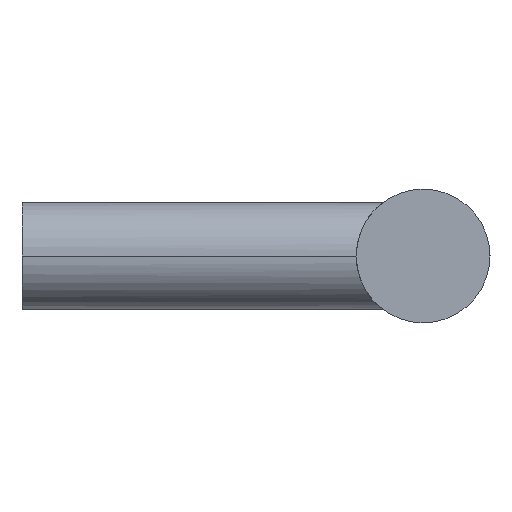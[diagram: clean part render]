
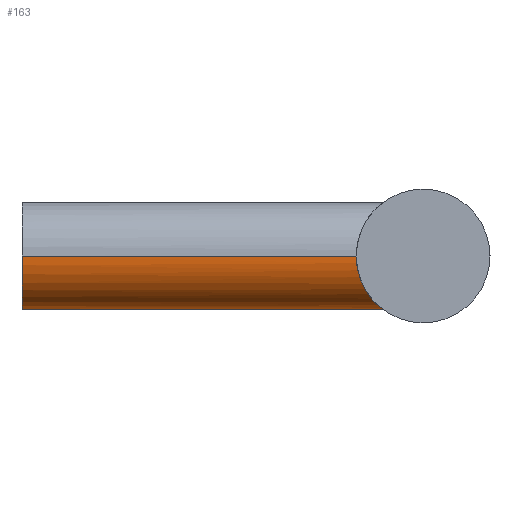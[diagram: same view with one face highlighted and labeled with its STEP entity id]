
A CAD part, left-side view. The second image highlights one B-rep face of the part: STEP entity #163.
In plain terms, the highlighted cylindrical face has radius 4 mm (diameter 8 mm), a partial arc.
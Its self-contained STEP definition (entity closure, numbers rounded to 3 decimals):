
#95 = VERTEX_POINT( '', #253 );
#115 = VERTEX_POINT( '', #279 );
#123 = EDGE_CURVE( '', #145, #95, #288, .T. );
#145 = VERTEX_POINT( '', #312 );
#151 = EDGE_CURVE( '', #115, #213, #319, .T. );
#163 = ADVANCED_FACE( '', ( #332 ), #333, .T. );
#199 = EDGE_CURVE( '', #145, #213, #371, .T. );
#213 = VERTEX_POINT( '', #388 );
#219 = EDGE_CURVE( '', #115, #95, #395, .T. );
#253 = CARTESIAN_POINT( '', ( -4., 0., 0. ) );
#279 = CARTESIAN_POINT( '', ( 4., 0., 0. ) );
#288 = LINE( '', #463, #464 );
#312 = CARTESIAN_POINT( '', ( -4., -25., 0. ) );
#319 = LINE( '', #535, #536 );
#332 = FACE_OUTER_BOUND( '', #552, .T. );
#333 = CYLINDRICAL_SURFACE( '', #553, 4. );
#371 = B_SPLINE_CURVE_WITH_KNOTS( '', 3, ( #620, #621, #622, #623, #624, #625, #626, #627, #628, #629, #630, #631, #632, #633, #634, #635, #636, #637, #638, #639, #640, #641, #642, #643, #644, #645, #646, #647, #648, #649, #650, #651, #652, #653 ), .UNSPECIFIED., .F., .F., ( 4, 2, 2, 2, 2, 2, 2, 2, 2, 2, 2, 2, 2, 2, 2, 2, 4 ), ( 6.46, 7.255, 8.05, 8.845, 9.639, 10.46, 11.28, 12.1, 12.921, 13.741, 14.561, 15.381, 16.202, 16.997, 17.791, 18.586, 19.381 ), .UNSPECIFIED. );
#388 = CARTESIAN_POINT( '', ( 4., -25., 0. ) );
#395 = CIRCLE( '', #716, 4. );
#463 = CARTESIAN_POINT( '', ( -4., 0., 0. ) );
#464 = VECTOR( '', #808, 1. );
#535 = CARTESIAN_POINT( '', ( 4., 0., 0. ) );
#536 = VECTOR( '', #830, 1. );
#552 = EDGE_LOOP( '', ( #842, #843, #844, #845 ) );
#553 = AXIS2_PLACEMENT_3D( '', #846, #847, #848 );
#620 = CARTESIAN_POINT( '', ( -4., -25., 0. ) );
#621 = CARTESIAN_POINT( '', ( -4., -25., -0.265 ) );
#622 = CARTESIAN_POINT( '', ( -3.973, -25.021, -0.535 ) );
#623 = CARTESIAN_POINT( '', ( -3.865, -25.107, -1.064 ) );
#624 = CARTESIAN_POINT( '', ( -3.784, -25.171, -1.323 ) );
#625 = CARTESIAN_POINT( '', ( -3.575, -25.333, -1.813 ) );
#626 = CARTESIAN_POINT( '', ( -3.447, -25.431, -2.045 ) );
#627 = CARTESIAN_POINT( '', ( -3.158, -25.645, -2.468 ) );
#628 = CARTESIAN_POINT( '', ( -2.997, -25.761, -2.66 ) );
#629 = CARTESIAN_POINT( '', ( -2.654, -25.996, -3.002 ) );
#630 = CARTESIAN_POINT( '', ( -2.459, -26.124, -3.165 ) );
#631 = CARTESIAN_POINT( '', ( -2.035, -26.379, -3.453 ) );
#632 = CARTESIAN_POINT( '', ( -1.807, -26.505, -3.578 ) );
#633 = CARTESIAN_POINT( '', ( -1.324, -26.728, -3.784 ) );
#634 = CARTESIAN_POINT( '', ( -1.07, -26.825, -3.864 ) );
#635 = CARTESIAN_POINT( '', ( -0.545, -26.962, -3.972 ) );
#636 = CARTESIAN_POINT( '', ( -0.273, -27., -4. ) );
#637 = CARTESIAN_POINT( '', ( 0.273, -27., -4. ) );
#638 = CARTESIAN_POINT( '', ( 0.545, -26.962, -3.972 ) );
#639 = CARTESIAN_POINT( '', ( 1.07, -26.825, -3.864 ) );
#640 = CARTESIAN_POINT( '', ( 1.324, -26.728, -3.784 ) );
#641 = CARTESIAN_POINT( '', ( 1.807, -26.505, -3.578 ) );
#642 = CARTESIAN_POINT( '', ( 2.035, -26.379, -3.453 ) );
#643 = CARTESIAN_POINT( '', ( 2.459, -26.124, -3.165 ) );
#644 = CARTESIAN_POINT( '', ( 2.654, -25.996, -3.002 ) );
#645 = CARTESIAN_POINT( '', ( 2.997, -25.761, -2.66 ) );
#646 = CARTESIAN_POINT( '', ( 3.158, -25.645, -2.468 ) );
#647 = CARTESIAN_POINT( '', ( 3.447, -25.431, -2.045 ) );
#648 = CARTESIAN_POINT( '', ( 3.575, -25.333, -1.813 ) );
#649 = CARTESIAN_POINT( '', ( 3.784, -25.171, -1.323 ) );
#650 = CARTESIAN_POINT( '', ( 3.865, -25.107, -1.064 ) );
#651 = CARTESIAN_POINT( '', ( 3.973, -25.021, -0.535 ) );
#652 = CARTESIAN_POINT( '', ( 4., -25., -0.265 ) );
#653 = CARTESIAN_POINT( '', ( 4., -25., 0. ) );
#716 = AXIS2_PLACEMENT_3D( '', #919, #920, #921 );
#808 = DIRECTION( '', ( 0., 1., 0. ) );
#830 = DIRECTION( '', ( 0., -1., 0. ) );
#842 = ORIENTED_EDGE( '', *, *, #151, .T. );
#843 = ORIENTED_EDGE( '', *, *, #199, .F. );
#844 = ORIENTED_EDGE( '', *, *, #123, .T. );
#845 = ORIENTED_EDGE( '', *, *, #219, .F. );
#846 = CARTESIAN_POINT( '', ( 0., 0., 0. ) );
#847 = DIRECTION( '', ( 0., 1., 0. ) );
#848 = DIRECTION( '', ( 1., 0., 0. ) );
#919 = CARTESIAN_POINT( '', ( 0., 0., 0. ) );
#920 = DIRECTION( '', ( 0., 1., 0. ) );
#921 = DIRECTION( '', ( 1., 0., 0. ) );
